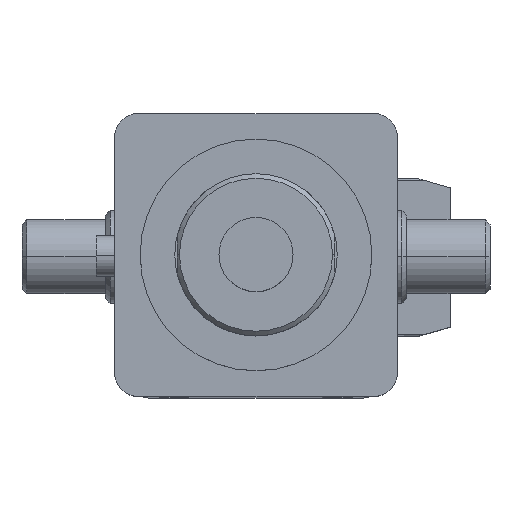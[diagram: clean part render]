
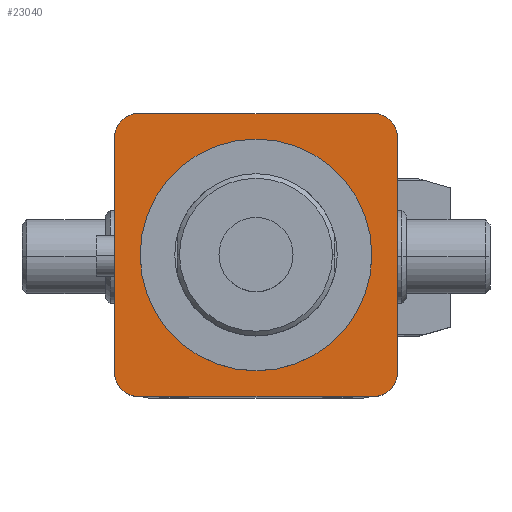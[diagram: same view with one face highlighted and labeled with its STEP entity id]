
A CAD part, top view. The second image highlights one B-rep face of the part: STEP entity #23040.
In plain terms, the highlighted planar face has unit normal (0, 0, 1).
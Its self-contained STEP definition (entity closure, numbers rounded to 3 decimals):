
#113 = CARTESIAN_POINT ( 'NONE',  ( 30.5, 0., 197. ) ) ;
#1498 = CIRCLE ( 'NONE', #11153, 25. ) ;
#1542 = EDGE_CURVE ( 'NONE', #19155, #4265, #2743, .T. ) ;
#1604 = VERTEX_POINT ( 'NONE', #13661 ) ;
#1608 = AXIS2_PLACEMENT_3D ( 'NONE', #7580, #3450, #5447 ) ;
#2006 = DIRECTION ( 'NONE',  ( 0., 0., -1. ) ) ;
#2179 = DIRECTION ( 'NONE',  ( 0., 0., 1. ) ) ;
#2279 = DIRECTION ( 'NONE',  ( -1., 0., 0. ) ) ;
#2573 = LINE ( 'NONE', #17151, #7573 ) ;
#2670 = CARTESIAN_POINT ( 'NONE',  ( -25.5, -25.5, 197. ) ) ;
#2698 = CARTESIAN_POINT ( 'NONE',  ( -50., -30.5, 197. ) ) ;
#2743 = LINE ( 'NONE', #113, #4204 ) ;
#2880 = DIRECTION ( 'NONE',  ( 0., 0., 1. ) ) ;
#3261 = EDGE_LOOP ( 'NONE', ( #9961, #17585, #6299, #7075, #22081, #4055, #7787, #17150 ) ) ;
#3428 = EDGE_CURVE ( 'NONE', #11893, #9497, #14767, .T. ) ;
#3450 = DIRECTION ( 'NONE',  ( 0., 0., 1. ) ) ;
#3461 = DIRECTION ( 'NONE',  ( 0., 0., 1. ) ) ;
#3896 = DIRECTION ( 'NONE',  ( -1., 0., 0. ) ) ;
#3902 = CARTESIAN_POINT ( 'NONE',  ( -25.5, -30.5, 197. ) ) ;
#4055 = ORIENTED_EDGE ( 'NONE', *, *, #11034, .T. ) ;
#4204 = VECTOR ( 'NONE', #22847, 1000. ) ;
#4265 = VERTEX_POINT ( 'NONE', #14713 ) ;
#4670 = DIRECTION ( 'NONE',  ( 1., 0., 0. ) ) ;
#4728 = DIRECTION ( 'NONE',  ( 0., 0., 1. ) ) ;
#5020 = DIRECTION ( 'NONE',  ( 0., 0., 1. ) ) ;
#5285 = VECTOR ( 'NONE', #4670, 1000. ) ;
#5307 = VERTEX_POINT ( 'NONE', #6649 ) ;
#5447 = DIRECTION ( 'NONE',  ( -1., 0., 0. ) ) ;
#6299 = ORIENTED_EDGE ( 'NONE', *, *, #1542, .F. ) ;
#6649 = CARTESIAN_POINT ( 'NONE',  ( 25.5, 30.5, 197. ) ) ;
#6942 = DIRECTION ( 'NONE',  ( -1., 0., 0. ) ) ;
#7075 = ORIENTED_EDGE ( 'NONE', *, *, #14702, .T. ) ;
#7332 = CARTESIAN_POINT ( 'NONE',  ( 25., 0., 197. ) ) ;
#7371 = AXIS2_PLACEMENT_3D ( 'NONE', #14451, #5020, #6942 ) ;
#7573 = VECTOR ( 'NONE', #2279, 1000. ) ;
#7580 = CARTESIAN_POINT ( 'NONE',  ( 25.5, 25.5, 197. ) ) ;
#7787 = ORIENTED_EDGE ( 'NONE', *, *, #15218, .T. ) ;
#7819 = EDGE_LOOP ( 'NONE', ( #16678, #13720 ) ) ;
#9042 = CIRCLE ( 'NONE', #1608, 5. ) ;
#9192 = EDGE_CURVE ( 'NONE', #17313, #18570, #1498, .T. ) ;
#9311 = CIRCLE ( 'NONE', #20296, 5. ) ;
#9497 = VERTEX_POINT ( 'NONE', #22962 ) ;
#9750 = CARTESIAN_POINT ( 'NONE',  ( 0., 0., 197. ) ) ;
#9961 = ORIENTED_EDGE ( 'NONE', *, *, #3428, .T. ) ;
#10257 = AXIS2_PLACEMENT_3D ( 'NONE', #2670, #4728, #19672 ) ;
#11034 = EDGE_CURVE ( 'NONE', #1604, #17391, #16305, .T. ) ;
#11153 = AXIS2_PLACEMENT_3D ( 'NONE', #23795, #3461, #16132 ) ;
#11573 = AXIS2_PLACEMENT_3D ( 'NONE', #22765, #2006, #3896 ) ;
#11893 = VERTEX_POINT ( 'NONE', #3902 ) ;
#12429 = CARTESIAN_POINT ( 'NONE',  ( 30.5, 25.5, 197. ) ) ;
#13661 = CARTESIAN_POINT ( 'NONE',  ( -25.5, 30.5, 197. ) ) ;
#13720 = ORIENTED_EDGE ( 'NONE', *, *, #9192, .F. ) ;
#13749 = CIRCLE ( 'NONE', #10257, 5. ) ;
#13760 = VECTOR ( 'NONE', #22294, 1000. ) ;
#14451 = CARTESIAN_POINT ( 'NONE',  ( -25.5, 25.5, 197. ) ) ;
#14702 = EDGE_CURVE ( 'NONE', #19155, #5307, #9042, .T. ) ;
#14713 = CARTESIAN_POINT ( 'NONE',  ( 30.5, -25.5, 197. ) ) ;
#14767 = LINE ( 'NONE', #2698, #5285 ) ;
#14884 = CARTESIAN_POINT ( 'NONE',  ( -30.5, 25.5, 197. ) ) ;
#14963 = FACE_OUTER_BOUND ( 'NONE', #3261, .T. ) ;
#15114 = VERTEX_POINT ( 'NONE', #20484 ) ;
#15218 = EDGE_CURVE ( 'NONE', #17391, #15114, #18167, .T. ) ;
#16131 = DIRECTION ( 'NONE',  ( -1., 0., 0. ) ) ;
#16132 = DIRECTION ( 'NONE',  ( -1., 0., 0. ) ) ;
#16305 = CIRCLE ( 'NONE', #7371, 5. ) ;
#16380 = CIRCLE ( 'NONE', #24188, 25. ) ;
#16457 = EDGE_CURVE ( 'NONE', #5307, #1604, #2573, .T. ) ;
#16678 = ORIENTED_EDGE ( 'NONE', *, *, #24312, .F. ) ;
#17150 = ORIENTED_EDGE ( 'NONE', *, *, #20677, .T. ) ;
#17151 = CARTESIAN_POINT ( 'NONE',  ( -50., 30.5, 197. ) ) ;
#17313 = VERTEX_POINT ( 'NONE', #7332 ) ;
#17391 = VERTEX_POINT ( 'NONE', #14884 ) ;
#17585 = ORIENTED_EDGE ( 'NONE', *, *, #19640, .T. ) ;
#18167 = LINE ( 'NONE', #24091, #13760 ) ;
#18570 = VERTEX_POINT ( 'NONE', #19152 ) ;
#19152 = CARTESIAN_POINT ( 'NONE',  ( -25., 0., 197. ) ) ;
#19155 = VERTEX_POINT ( 'NONE', #12429 ) ;
#19640 = EDGE_CURVE ( 'NONE', #9497, #4265, #9311, .T. ) ;
#19672 = DIRECTION ( 'NONE',  ( -1., 0., 0. ) ) ;
#20296 = AXIS2_PLACEMENT_3D ( 'NONE', #21746, #2880, #16131 ) ;
#20484 = CARTESIAN_POINT ( 'NONE',  ( -30.5, -25.5, 197. ) ) ;
#20677 = EDGE_CURVE ( 'NONE', #15114, #11893, #13749, .T. ) ;
#20791 = PLANE ( 'NONE',  #11573 ) ;
#21746 = CARTESIAN_POINT ( 'NONE',  ( 25.5, -25.5, 197. ) ) ;
#22081 = ORIENTED_EDGE ( 'NONE', *, *, #16457, .T. ) ;
#22294 = DIRECTION ( 'NONE',  ( 0., -1., 0. ) ) ;
#22565 = FACE_BOUND ( 'NONE', #7819, .T. ) ;
#22765 = CARTESIAN_POINT ( 'NONE',  ( 0., 0., 197. ) ) ;
#22847 = DIRECTION ( 'NONE',  ( 0., -1., 0. ) ) ;
#22914 = DIRECTION ( 'NONE',  ( -1., 0., 0. ) ) ;
#22962 = CARTESIAN_POINT ( 'NONE',  ( 25.5, -30.5, 197. ) ) ;
#23040 = ADVANCED_FACE ( 'NONE', ( #22565, #14963 ), #20791, .F. ) ;
#23795 = CARTESIAN_POINT ( 'NONE',  ( 0., 0., 197. ) ) ;
#24091 = CARTESIAN_POINT ( 'NONE',  ( -30.5, 0., 197. ) ) ;
#24188 = AXIS2_PLACEMENT_3D ( 'NONE', #9750, #2179, #22914 ) ;
#24312 = EDGE_CURVE ( 'NONE', #18570, #17313, #16380, .T. ) ;
